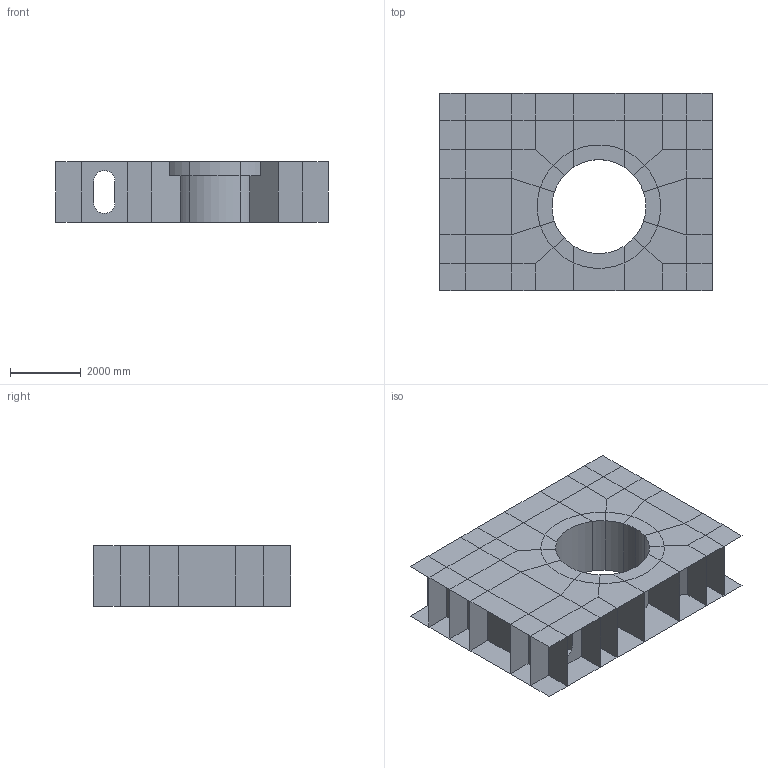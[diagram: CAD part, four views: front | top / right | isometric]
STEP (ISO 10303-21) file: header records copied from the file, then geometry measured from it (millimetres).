
FILE_DESCRIPTION(('FreeCAD Model'),'2;1');
FILE_NAME( 'C:/Users/Barbara/Desktop/adadbe427441473d758603eb4c34a6_fusion.step', '2019-07-10T13:16:38',('Author'),(''), 'Open CASCADE STEP processor 7.3','FreeCAD','Unknown');
FILE_SCHEMA(('AUTOMOTIVE_DESIGN { 1 0 10303 214 1 1 1 1 }'));
Length unit declared in the file: millimetre
Products named in the file (1): Fusion
Bounding box: 7720 x 5590 x 1720 mm (x, y, z)
Surface area: 192366250 mm2 (no closed solid volume)
Topology: 0 solids, 28 shells, 180 faces, 560 edges, 404 vertices
Faces by surface type: plane 152, cylinder 28
Entity records: 12410 total; most frequent: CARTESIAN_POINT 2093, DIRECTION 1684, LINE 1050, VECTOR 1050, ORIENTED_EDGE 776, PCURVE 776, DEFINITIONAL_REPRESENTATION 776, EDGE_CURVE 560
